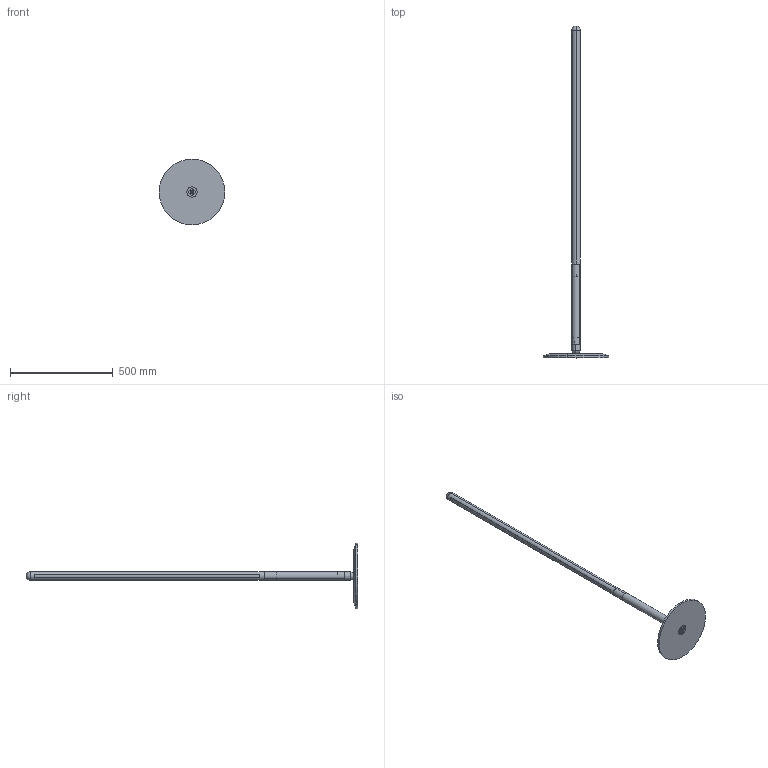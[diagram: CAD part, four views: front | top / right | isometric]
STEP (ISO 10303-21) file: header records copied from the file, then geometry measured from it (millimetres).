
FILE_DESCRIPTION (( 'STEP AP214' ), '1' );
FILE_NAME ('LAMPARA LINEA UNO.STEP', '2022-12-22T15:21:57', ( '' ), ( '' ), 'SwSTEP 2.0', 'SolidWorks 2016', '' );
FILE_SCHEMA (( 'AUTOMOTIVE_DESIGN' ));
Length unit declared in the file: millimetre
Products named in the file (10): CUERPO_LAMPARA_PIE; ESPARRAGO PASANTE ROSCADO; ARANDELA METÁLICAØ20x1; BASE_MARMOL_GALÁN DE NOCHE_CHAFLAN_10X30; TUERCA M10; LAMPARA LINEA UNO; TUBO INFERIOR LAMPARA PIE; ARANDELA DE CAUCHO Ø30x3; DIFUSOR_LUZ_CARRIL_PIE; TERMINAL SUPERIOR LAMPARA PIE
Assembly tree (11 placements, depth 2):
  LAMPARA LINEA UNO
    CUERPO_LAMPARA_PIE
    DIFUSOR_LUZ_CARRIL_PIE
    TERMINAL SUPERIOR LAMPARA PIE
    TUBO INFERIOR LAMPARA PIE
    BASE_MARMOL_GALÁN DE NOCHE_CHAFLAN_10X30
    ARANDELA DE CAUCHO Ø30x3
    ESPARRAGO PASANTE ROSCADO
    TUERCA M10  x3
    ARANDELA METÁLICAØ20x1
Bounding box: 319.18 x 1618 x 319.18 mm (x, y, z)
Volume: 2693843.7 mm3; surface area: 541009.9 mm2
Topology: 11 solids, 11 shells, 113 faces, 268 edges, 175 vertices
Faces by surface type: plane 60, cylinder 47, sphere 4, cone 2
Entity records: 3386 total; most frequent: CARTESIAN_POINT 666, DIRECTION 504, ORIENTED_EDGE 424, EDGE_CURVE 212, AXIS2_PLACEMENT_3D 197, VERTEX_POINT 139, EDGE_LOOP 115, LINE 110
